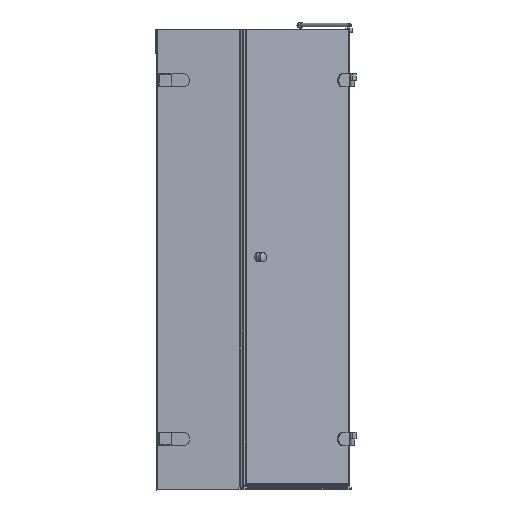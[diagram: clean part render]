
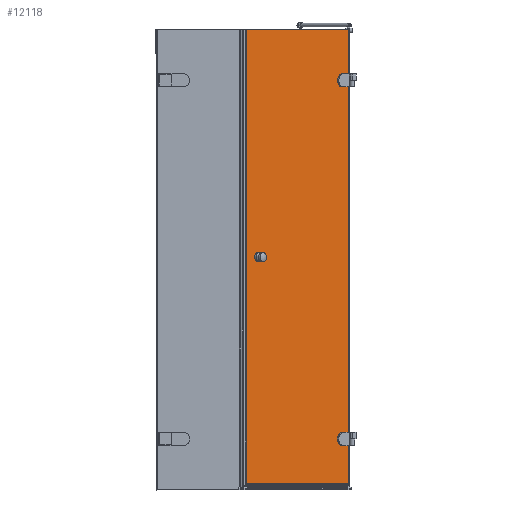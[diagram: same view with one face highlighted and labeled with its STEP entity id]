
A CAD part, front view. The second image highlights one B-rep face of the part: STEP entity #12118.
In plain terms, the highlighted planar face has unit normal (0.703, -0.711, 0).
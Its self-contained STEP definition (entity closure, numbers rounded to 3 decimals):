
#210=LINE($,#16678,#1397);
#212=LINE($,#16682,#1399);
#215=LINE($,#16689,#1402);
#261=LINE($,#16807,#1448);
#263=LINE($,#16811,#1450);
#266=LINE($,#16818,#1453);
#1222=LINE($,#20296,#2409);
#1231=LINE($,#20338,#2418);
#1232=LINE($,#20340,#2419);
#1233=LINE($,#20341,#2420);
#1397=VECTOR($,#13450,52.);
#1399=VECTOR($,#13454,23.);
#1402=VECTOR($,#13463,23.);
#1448=VECTOR($,#13577,52.);
#1450=VECTOR($,#13581,23.);
#1453=VECTOR($,#13590,23.);
#2409=VECTOR($,#16112,1875.4);
#2418=VECTOR($,#16145,590.4);
#2419=VECTOR($,#16146,1875.4);
#2420=VECTOR($,#16147,590.4);
#2601=FACE_BOUND($,#4064,.T.);
#2602=FACE_BOUND($,#4065,.T.);
#2603=FACE_BOUND($,#4066,.T.);
#4064=EDGE_LOOP($,(#10108,#10109,#10110,#10111));
#4065=EDGE_LOOP($,(#10112,#10113,#10114,#10115));
#4066=EDGE_LOOP($,(#10116,#10117,#10118,#10119));
#4174=CIRCLE($,#12270,26.);
#4186=CIRCLE($,#12308,26.);
#4578=VERTEX_POINT($,#16675);
#4579=VERTEX_POINT($,#16677);
#4580=VERTEX_POINT($,#16681);
#4581=VERTEX_POINT($,#16685);
#4618=VERTEX_POINT($,#16804);
#4619=VERTEX_POINT($,#16806);
#4620=VERTEX_POINT($,#16810);
#4621=VERTEX_POINT($,#16814);
#5472=VERTEX_POINT($,#20293);
#5473=VERTEX_POINT($,#20295);
#5482=VERTEX_POINT($,#20337);
#5483=VERTEX_POINT($,#20339);
#5665=EDGE_CURVE($,#4579,#4578,#210,.T.);
#5667=EDGE_CURVE($,#4580,#4579,#212,.T.);
#5669=EDGE_CURVE($,#4581,#4580,#4174,.T.);
#5671=EDGE_CURVE($,#4578,#4581,#215,.T.);
#5728=EDGE_CURVE($,#4619,#4618,#261,.T.);
#5730=EDGE_CURVE($,#4620,#4619,#263,.T.);
#5732=EDGE_CURVE($,#4621,#4620,#4186,.T.);
#5734=EDGE_CURVE($,#4618,#4621,#266,.T.);
#7043=EDGE_CURVE($,#5473,#5472,#1222,.T.);
#7059=EDGE_CURVE($,#5472,#5482,#1231,.T.);
#7060=EDGE_CURVE($,#5482,#5483,#1232,.T.);
#7061=EDGE_CURVE($,#5473,#5483,#1233,.T.);
#10108=ORIENTED_EDGE($,*,*,#5665,.T.);
#10109=ORIENTED_EDGE($,*,*,#5671,.T.);
#10110=ORIENTED_EDGE($,*,*,#5669,.T.);
#10111=ORIENTED_EDGE($,*,*,#5667,.T.);
#10112=ORIENTED_EDGE($,*,*,#5728,.T.);
#10113=ORIENTED_EDGE($,*,*,#5734,.T.);
#10114=ORIENTED_EDGE($,*,*,#5732,.T.);
#10115=ORIENTED_EDGE($,*,*,#5730,.T.);
#10116=ORIENTED_EDGE($,*,*,#7043,.T.);
#10117=ORIENTED_EDGE($,*,*,#7059,.T.);
#10118=ORIENTED_EDGE($,*,*,#7060,.T.);
#10119=ORIENTED_EDGE($,*,*,#7061,.F.);
#10849=PLANE($,#13104);
#12118=ADVANCED_FACE($,(#2601,#2602,#2603),#10849,.T.);
#12270=AXIS2_PLACEMENT_3D($,#16686,#13458,#13459);
#12308=AXIS2_PLACEMENT_3D($,#16815,#13585,#13586);
#13104=AXIS2_PLACEMENT_3D($,#20336,#16143,#16144);
#13450=DIRECTION($,(0.,0.,-1.));
#13454=DIRECTION($,(0.711,0.703,0.));
#13458=DIRECTION('center_axis',(-0.703,0.711,0.));
#13459=DIRECTION('ref_axis',(0.,0.,
-1.));
#13463=DIRECTION($,(-0.711,-0.703,0.));
#13577=DIRECTION($,(0.,0.,-1.));
#13581=DIRECTION($,(0.711,0.703,0.));
#13585=DIRECTION('center_axis',(-0.703,0.711,0.));
#13586=DIRECTION('ref_axis',(0.,0.,
-1.));
#13590=DIRECTION($,(-0.711,-0.703,0.));
#16112=DIRECTION($,(0.,0.,-1.));
#16143=DIRECTION('center_axis',(0.703,-0.711,0.));
#16144=DIRECTION('ref_axis',(0.711,0.703,0.));
#16145=DIRECTION($,(0.711,0.703,0.));
#16146=DIRECTION($,(0.,0.,1.));
#16147=DIRECTION($,(0.711,0.703,0.));
#16675=CARTESIAN_POINT('',(1286.657,394.773,-255.656));
#16677=CARTESIAN_POINT('',(1286.657,394.773,-203.656));
#16678=CARTESIAN_POINT($,(1286.657,394.773,-311.656));
#16681=CARTESIAN_POINT('',(1270.308,378.596,-203.656));
#16682=CARTESIAN_POINT($,(1071.633,182.004,-203.656));
#16685=CARTESIAN_POINT('',(1270.308,378.596,-255.656));
#16686=CARTESIAN_POINT('Origin',(1270.308,378.596,-229.656));
#16689=CARTESIAN_POINT($,(1079.807,190.093,-255.656));
#16804=CARTESIAN_POINT('',(1286.657,394.773,1224.344));
#16806=CARTESIAN_POINT('',(1286.657,394.773,1276.344));
#16807=CARTESIAN_POINT($,(1286.657,394.773,428.344));
#16810=CARTESIAN_POINT('',(1270.308,378.596,1276.344));
#16811=CARTESIAN_POINT($,(1071.633,182.004,1276.344));
#16814=CARTESIAN_POINT('',(1270.308,378.596,1224.344));
#16815=CARTESIAN_POINT('Origin',(1270.308,378.596,1250.344));
#16818=CARTESIAN_POINT($,(1079.807,190.093,1224.344));
#20293=CARTESIAN_POINT('',(876.228,-11.353,-415.056));
#20295=CARTESIAN_POINT('',(876.228,-11.353,1460.344));
#20296=CARTESIAN_POINT($,(876.228,-11.353,1460.344));
#20336=CARTESIAN_POINT('Origin',(872.958,-14.588,-419.656));
#20337=CARTESIAN_POINT('',(1295.898,403.917,-415.056));
#20338=CARTESIAN_POINT($,(865.85,-21.622,-415.056));
#20339=CARTESIAN_POINT('',(1295.898,403.917,1460.344));
#20340=CARTESIAN_POINT($,(1295.898,403.917,-419.656));
#20341=CARTESIAN_POINT($,(872.958,-14.588,1460.344));
